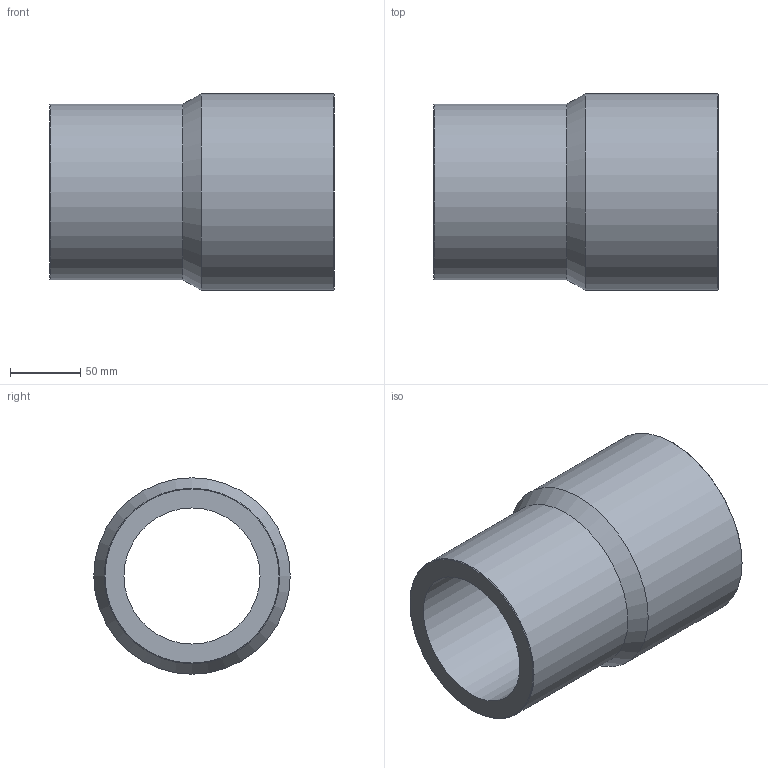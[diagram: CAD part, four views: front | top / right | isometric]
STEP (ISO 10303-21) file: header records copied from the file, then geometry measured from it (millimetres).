
FILE_DESCRIPTION(/* description */ ('Unknown'),/* implementation_level */ '2;1');
FILE_NAME(/* name */ 'RP140125G',/* time_stamp */ '2021-09-16T16:57:58+02:00',/* author */ ('Unknown'),/* organization */ ('Unknown'),/* preprocessor_version */ 'ST-DEVELOPER v16.7',/* originating_system */ 'Solid Edge',/* authorisation */ 'Unknown');
FILE_SCHEMA (('AUTOMOTIVE_DESIGN {1 0 10303 214 3 1 1}'));
Length unit declared in the file: millimetre
Products named in the file (1): RP140125G
Bounding box: 203 x 140 x 140 mm (x, y, z)
Volume: 1121331.6 mm3; surface area: 161942 mm2
Topology: 1 solids, 1 shells, 10 faces, 19 edges, 11 vertices
Faces by surface type: cylinder 4, cone 4, plane 2
Full cylindrical faces by diameter (mm): 97 x1, 108.6 x1, 125 x1, 140 x1
Entity records: 238 total; most frequent: DIRECTION 42, CARTESIAN_POINT 31, AXIS2_PLACEMENT_3D 21, ORIENTED_EDGE 20, EDGE_LOOP 20, FACE_BOUND 20, EDGE_CURVE 10, VERTEX_POINT 10
